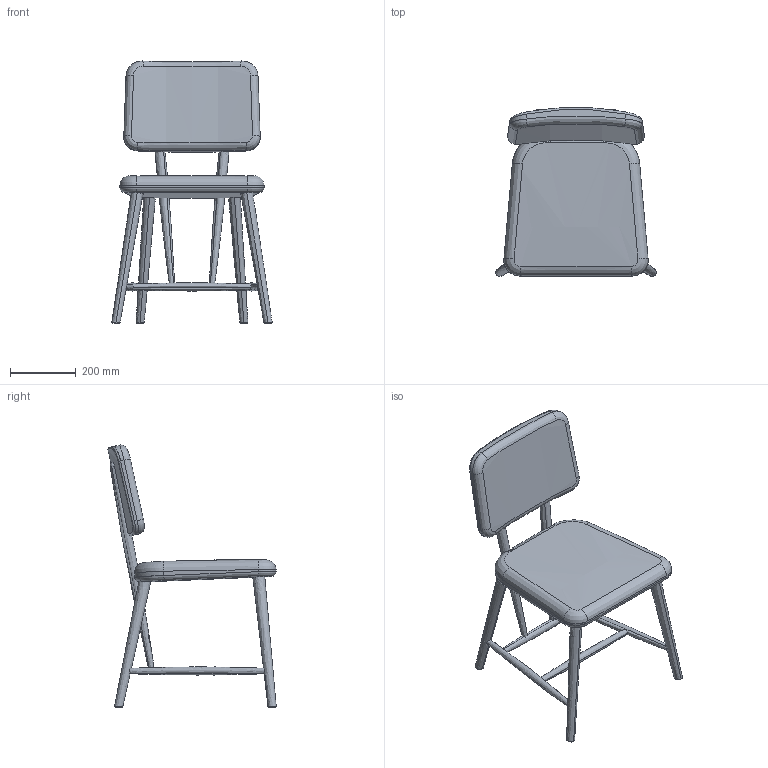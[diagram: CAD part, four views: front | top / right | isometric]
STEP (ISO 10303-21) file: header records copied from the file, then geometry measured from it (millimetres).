
FILE_DESCRIPTION(/* description */ (''),/* implementation_level */ '2;1');
FILE_NAME(/* name */ 'KHKI5B~M',/* time_stamp */ '2020-06-22T18:57:19+09:00',/* author */ (''),/* organization */ (''),/* preprocessor_version */ 'ST-DEVELOPER v15',/* originating_system */ '',/* authorisation */ '');
FILE_SCHEMA (('AUTOMOTIVE_DESIGN'));
Length unit declared in the file: millimetre
Products named in the file (5): Document; ﾌﾞﾛｯｸ 43; ﾌﾞﾛｯｸ 44; ﾌﾞﾛｯｸ 45; ﾌﾞﾛｯｸ 46
Assembly tree (4 placements, depth 2):
  Document
    ﾌﾞﾛｯｸ 43
    ﾌﾞﾛｯｸ 44
    ﾌﾞﾛｯｸ 45
    ﾌﾞﾛｯｸ 46
Bounding box: 489.53 x 514.26 x 800.01 mm (x, y, z)
Volume: 585694.5 mm3; surface area: 1038231 mm2
Topology: 4 solids, 16 shells, 132 faces, 343 edges, 204 vertices
Faces by surface type: bspline 118, plane 14
Entity records: 17190 total; most frequent: CARTESIAN_POINT 15187, ORIENTED_EDGE 586, EDGE_CURVE 339, B_SPLINE_CURVE_WITH_KNOTS 215, VERTEX_POINT 204, ADVANCED_FACE 132, FACE_OUTER_BOUND 132, EDGE_LOOP 132
